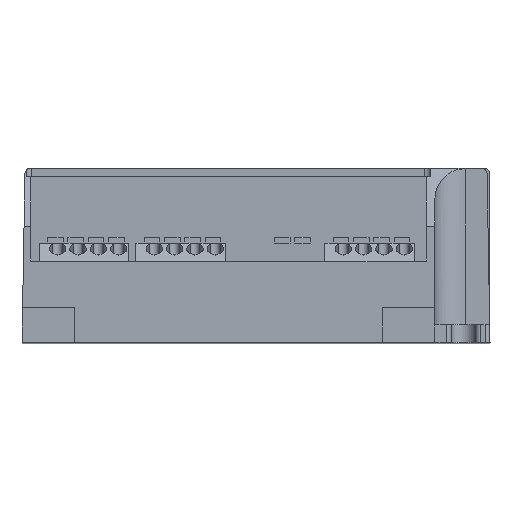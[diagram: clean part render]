
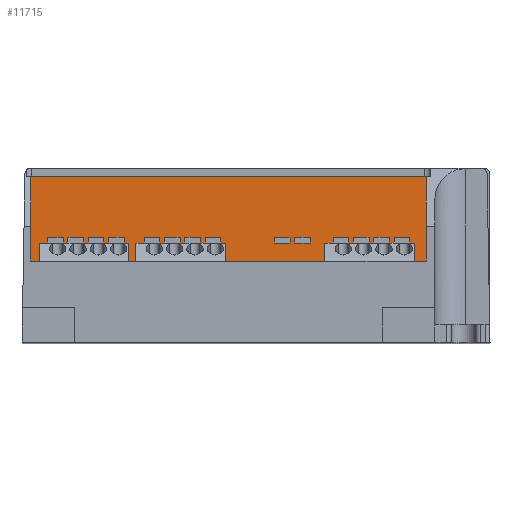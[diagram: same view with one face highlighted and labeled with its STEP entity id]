
A CAD part, top view. The second image highlights one B-rep face of the part: STEP entity #11715.
In plain terms, the highlighted planar face has unit normal (0, 0, 1).
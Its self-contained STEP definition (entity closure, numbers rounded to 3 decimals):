
#126 = CARTESIAN_POINT ( 'NONE',  ( 29.25, 17.05, 54.55 ) ) ;
#236 = LINE ( 'NONE', #9517, #2891 ) ;
#368 = DIRECTION ( 'NONE',  ( 0., -1., 0. ) ) ;
#1370 = LINE ( 'NONE', #7098, #13762 ) ;
#1638 = DIRECTION ( 'NONE',  ( -1., 0., 0. ) ) ;
#2062 = CARTESIAN_POINT ( 'NONE',  ( -38.75, 28.5, 54.55 ) ) ;
#2232 = LINE ( 'NONE', #126, #10869 ) ;
#2244 = LINE ( 'NONE', #7534, #14298 ) ;
#2324 = PLANE ( 'NONE',  #9475 ) ;
#2528 = VERTEX_POINT ( 'NONE', #8935 ) ;
#2695 = EDGE_CURVE ( 'NONE', #12868, #2528, #1370, .T. ) ;
#2891 = VECTOR ( 'NONE', #1638, 1000. ) ;
#2986 = VERTEX_POINT ( 'NONE', #7650 ) ;
#3443 = DIRECTION ( 'NONE',  ( -1., 0., 0. ) ) ;
#3965 = ORIENTED_EDGE ( 'NONE', *, *, #2695, .T. ) ;
#4107 = EDGE_CURVE ( 'NONE', #2986, #11750, #2232, .T. ) ;
#4668 = CARTESIAN_POINT ( 'NONE',  ( 29.25, 28.5, 54.55 ) ) ;
#4805 = EDGE_LOOP ( 'NONE', ( #3965, #5594, #13871, #7536 ) ) ;
#5406 = DIRECTION ( 'NONE',  ( -1., 0., 0. ) ) ;
#5527 = FACE_OUTER_BOUND ( 'NONE', #4805, .T. ) ;
#5594 = ORIENTED_EDGE ( 'NONE', *, *, #12118, .F. ) ;
#7098 = CARTESIAN_POINT ( 'NONE',  ( -38.75, 17.05, 54.55 ) ) ;
#7534 = CARTESIAN_POINT ( 'NONE',  ( -4.75, 28.5, 54.55 ) ) ;
#7536 = ORIENTED_EDGE ( 'NONE', *, *, #10071, .T. ) ;
#7650 = CARTESIAN_POINT ( 'NONE',  ( 29.25, 5.6, 54.55 ) ) ;
#8935 = CARTESIAN_POINT ( 'NONE',  ( -38.75, 5.6, 54.55 ) ) ;
#9053 = CARTESIAN_POINT ( 'NONE',  ( 30.61, 5.142, 54.55 ) ) ;
#9475 = AXIS2_PLACEMENT_3D ( 'NONE', #9053, #10192, #3443 ) ;
#9517 = CARTESIAN_POINT ( 'NONE',  ( -4.75, 5.6, 54.55 ) ) ;
#10071 = EDGE_CURVE ( 'NONE', #11750, #12868, #2244, .T. ) ;
#10192 = DIRECTION ( 'NONE',  ( 0., 0., -1. ) ) ;
#10869 = VECTOR ( 'NONE', #13690, 1000. ) ;
#11715 = ADVANCED_FACE ( 'NONE', ( #5527 ), #2324, .F. ) ;
#11750 = VERTEX_POINT ( 'NONE', #4668 ) ;
#12118 = EDGE_CURVE ( 'NONE', #2986, #2528, #236, .T. ) ;
#12868 = VERTEX_POINT ( 'NONE', #2062 ) ;
#13690 = DIRECTION ( 'NONE',  ( 0., 1., 0. ) ) ;
#13762 = VECTOR ( 'NONE', #368, 1000. ) ;
#13871 = ORIENTED_EDGE ( 'NONE', *, *, #4107, .T. ) ;
#14298 = VECTOR ( 'NONE', #5406, 1000. ) ;
